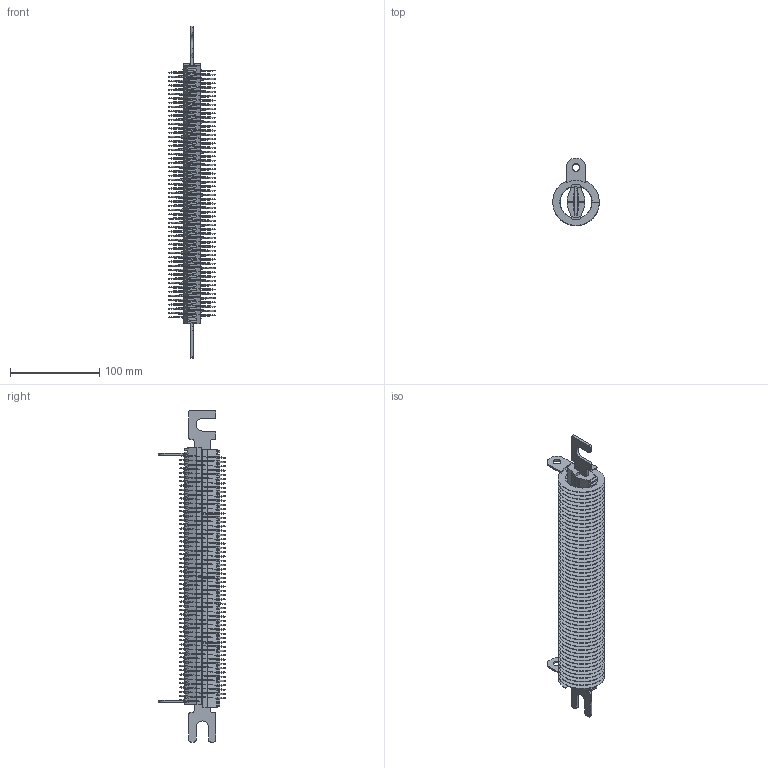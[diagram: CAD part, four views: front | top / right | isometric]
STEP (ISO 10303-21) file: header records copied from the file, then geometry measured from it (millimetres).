
FILE_DESCRIPTION(/* description */ (''),/* implementation_level */ '2;1');
FILE_NAME(/* name */ 'C:\_Vault\Dati\CATALOGO\RNP\RNP Catalogo\RNP 800.stp',/* time_stamp */ '2023-01-25T16:10:35+01:00',/* author */ ('claudio'),/* organization */ ('Fairfild Srl'),/* preprocessor_version */ 'ST-DEVELOPER v18.1',/* originating_system */ 'Autodesk Inventor 2022',/* authorisation */ '');
FILE_SCHEMA (('AUTOMOTIVE_DESIGN { 1 0 10303 214 3 1 1 }'));
Length unit declared in the file: millimetre
Products named in the file (6): RNP 800 14 gole; 76NP701372AT140030; Mica RNP MUSCOVITE 289x17x0,50; Spirale RNP 800 SX  14 gole; 14NP22G01400000001; 84NP70F8M500200000
Assembly tree (13 placements, depth 2):
  RNP 800 14 gole
    76NP701372AT140030
    Mica RNP MUSCOVITE 289x17x0,50
    Spirale RNP 800 SX  14 gole
    14NP22G01400000001  x8
    84NP70F8M500200000  x2
Bounding box: 52 x 75.01 x 371 mm (x, y, z)
Volume: 196443.4 mm3; surface area: 224882.6 mm2
Topology: 13 solids, 13 shells, 774 faces, 2244 edges, 1496 vertices
Faces by surface type: plane 502, cylinder 270, bspline 2
Full cylindrical faces by diameter (mm): 8.5 x2, 36 x57, 52 x57
Entity records: 19196 total; most frequent: CARTESIAN_POINT 12527, ORIENTED_EDGE 1422, DIRECTION 1115, EDGE_CURVE 711, VERTEX_POINT 474, AXIS2_PLACEMENT_3D 372, LINE 371, VECTOR 371
